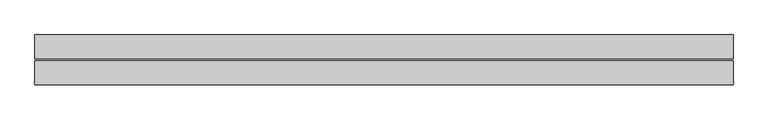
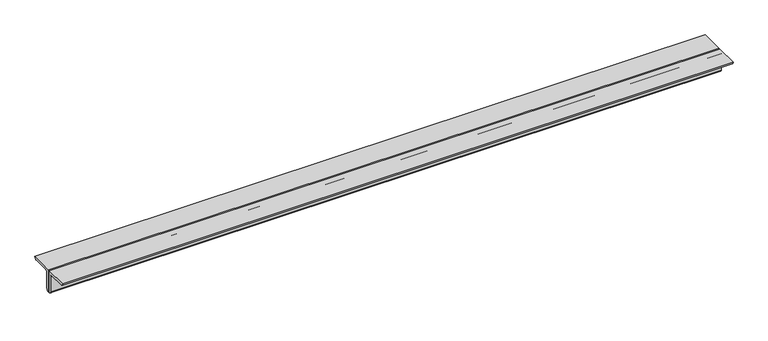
"""IFC4 building model written with IfcOpenShell, lengths in millimetres: beam geometry, Profilati doppi a L : DCED150x12."""

import ifcopenshell
import ifcopenshell.guid

model = None  # the IFC model being written
_history = None  # IfcOwnerHistory: only IFC2X3 demands one
_inside = {}  # id of a spatial element -> (the spatial element, [elements in it])
_under = {}  # id of a project, library or spatial element -> (it, [spatial elements below it])
_declared = {}  # id of a project -> (the project, [libraries it declares])
_typed = {}  # id of a type object -> (the type object, [elements of that type])
_made_of = {}  # id of a material, layer set ... -> (it, [elements and type objects made of it])


def new_model(schema):
    """Start an empty IFC model of exactly this schema.

    Asked for "IFC4X3", IfcOpenShell would pick the latest addendum, in which some entities
    have other attributes; the version numbers below select the first issue.
    IFC2X3 requires an IfcOwnerHistory on every rooted entity: one is made here for all.
    """
    global model, _history
    if schema == "IFC4X3":
        model = ifcopenshell.file(schema_version=(4, 3, 0, 0))
    else:
        model = ifcopenshell.file(schema=schema)
    _inside.clear()
    _under.clear()
    _declared.clear()
    _typed.clear()
    _made_of.clear()
    _history = None
    if model.schema == "IFC2X3":
        org = make("IfcOrganization", Name="unknown")
        user = make(
            "IfcPersonAndOrganization",
            ThePerson=make("IfcPerson", FamilyName="unknown"),
            TheOrganization=org,
        )
        app = make(
            "IfcApplication",
            ApplicationDeveloper=org,
            Version="unknown",
            ApplicationFullName="unknown",
            ApplicationIdentifier="unknown",
        )
        _history = make(
            "IfcOwnerHistory",
            OwningUser=user,
            OwningApplication=app,
            ChangeAction="ADDED",
            CreationDate=0,
        )
    return model


def make(cls, **values):
    """One entity of the class cls with the attributes given. An attribute that is None is left unset."""
    return model.create_entity(
        cls, **{name: value for name, value in values.items() if value is not None}
    )


def rooted(cls, **values):
    """An entity with a GlobalId (a new one), such as an element, a storey or a relation."""
    return make(cls, GlobalId=ifcopenshell.guid.new(), OwnerHistory=_history, **values)


def si_unit(unit_type, name, prefix=None):
    """IfcSIUnit, for example si_unit("LENGTHUNIT", "METRE", prefix="MILLI")."""
    return make("IfcSIUnit", UnitType=unit_type, Prefix=prefix, Name=name)


def assignment(units):
    """IfcUnitAssignment: the units of a project."""
    return None if units is None else make("IfcUnitAssignment", Units=units)


def point(xyz):
    """IfcCartesianPoint."""
    return None if xyz is None else make("IfcCartesianPoint", Coordinates=xyz)


def direction(xyz):
    """IfcDirection."""
    return None if xyz is None else make("IfcDirection", DirectionRatios=xyz)


def frame(location, z_axis=None, x_axis=None):
    """IfcAxis2Placement3D, a coordinate frame: its origin and axes. An axis left out is left unset."""
    return make(
        "IfcAxis2Placement3D",
        Location=point(location),
        Axis=direction(z_axis),
        RefDirection=direction(x_axis),
    )


def frame_2d(location, x_axis=None):
    """IfcAxis2Placement2D, a coordinate frame in the plane: its origin and x axis."""
    return make(
        "IfcAxis2Placement2D", Location=point(location), RefDirection=direction(x_axis)
    )


def origin():
    """The frame at (0, 0, 0) with its axes left unset."""
    return frame((0.0, 0.0, 0.0))


def place(relative_to, where):
    """IfcLocalPlacement: puts the frame where relative to a parent placement (None: the world)."""
    return make(
        "IfcLocalPlacement", PlacementRelTo=relative_to, RelativePlacement=where
    )


def context(
    kind, dimensions, precision=None, world=None, true_north=None, identifier=None
):
    """IfcGeometricRepresentationContext, for example the 3D "Model" context."""
    return make(
        "IfcGeometricRepresentationContext",
        ContextIdentifier=identifier,
        ContextType=kind,
        CoordinateSpaceDimension=dimensions,
        Precision=precision,
        WorldCoordinateSystem=world,
        TrueNorth=true_north,
    )


def project(units=None, contexts=None):
    """IfcProject with its units and contexts."""
    return rooted(
        "IfcProject",
        Name="project",
        RepresentationContexts=contexts,
        UnitsInContext=assignment(units),
    )


def spatial(cls, under=None, at=None, **own):
    """A site, building, storey or space (cls), placed at a placement, below another one or the project."""
    s = rooted(cls, ObjectPlacement=at, **own)
    if under is not None:
        _under.setdefault(under.id(), (under, []))[1].append(s)
    return s


def polyline(points):
    """IfcPolyline through the points."""
    return make("IfcPolyline", Points=[point(p) for p in points])


def circle_curve(where, radius):
    """IfcCircle in the frame where."""
    return make("IfcCircle", Position=where, Radius=radius)


def trimmed(basis, trim1, trim2, sense, master):
    """IfcTrimmedCurve: the piece of a basis curve between two trims."""
    return make(
        "IfcTrimmedCurve",
        BasisCurve=basis,
        Trim1=trim1,
        Trim2=trim2,
        SenseAgreement=sense,
        MasterRepresentation=master,
    )


def segment(curve, same_sense, transition):
    """IfcCompositeCurveSegment."""
    return make(
        "IfcCompositeCurveSegment",
        Transition=transition,
        SameSense=same_sense,
        ParentCurve=curve,
    )


def composite_curve(segments, self_intersect=None):
    """IfcCompositeCurve: segments joined end to end."""
    return make("IfcCompositeCurve", Segments=segments, SelfIntersect=self_intersect)


def outline(outer, holes=None, kind="AREA"):
    """IfcArbitraryClosedProfileDef: a profile drawn as a closed curve; with holes, ...WithVoids."""
    if holes is None:
        return make("IfcArbitraryClosedProfileDef", ProfileType=kind, OuterCurve=outer)
    return make(
        "IfcArbitraryProfileDefWithVoids",
        ProfileType=kind,
        OuterCurve=outer,
        InnerCurves=holes,
    )


def extrude(swept, where, along, depth):
    """IfcExtrudedAreaSolid: the profile swept, set in the frame where, extruded along a direction by depth."""
    return make(
        "IfcExtrudedAreaSolid",
        SweptArea=swept,
        Position=where,
        ExtrudedDirection=direction(along),
        Depth=depth,
    )


def shape(context_of_items, identifier, shape_type, items):
    """IfcShapeRepresentation: the items that make up one representation, for example the "Body"."""
    return make(
        "IfcShapeRepresentation",
        ContextOfItems=context_of_items,
        RepresentationIdentifier=identifier,
        RepresentationType=shape_type,
        Items=items,
    )


def source(mapping_origin, context_of_items, identifier, shape_type, items):
    """IfcRepresentationMap: a shape defined once, which mapped items show again and again."""
    return make(
        "IfcRepresentationMap",
        MappingOrigin=mapping_origin,
        MappedRepresentation=shape(context_of_items, identifier, shape_type, items),
    )


def transform(
    local_origin,
    x_axis=None,
    y_axis=None,
    z_axis=None,
    scale=None,
    scale2=None,
    scale3=None,
    uniform=True,
):
    """IfcCartesianTransformationOperator3D, or its non-uniform kind. x_axis, y_axis, z_axis: its Axis1, 2, 3."""
    if uniform:
        return make(
            "IfcCartesianTransformationOperator3D",
            Axis1=direction(x_axis),
            Axis2=direction(y_axis),
            LocalOrigin=point(local_origin),
            Scale=scale,
            Axis3=direction(z_axis),
        )
    return make(
        "IfcCartesianTransformationOperator3DnonUniform",
        Axis1=direction(x_axis),
        Axis2=direction(y_axis),
        LocalOrigin=point(local_origin),
        Scale=scale,
        Axis3=direction(z_axis),
        Scale2=scale2,
        Scale3=scale3,
    )


def mapped(mapping_source, mapping_target):
    """IfcMappedItem: shows the shape of a source again, moved by a transform."""
    return make(
        "IfcMappedItem", MappingSource=mapping_source, MappingTarget=mapping_target
    )


def made_of(thing, what):
    """Note that an element or type object is made of a material, layer set ...; save() writes the relation."""
    if what is not None:
        _made_of.setdefault(what.id(), (what, []))[1].append(thing)
    return thing


def element(
    cls,
    number,
    at=None,
    inside=None,
    cuts=None,
    type_object=None,
    material=None,
    context=None,
    identifier="Body",
    shape_type=None,
    held_by="IfcProductDefinitionShape",
    body=None,
    shapes=None,
    **own,
):
    """One element of the class cls, such as IfcWall. Its Tag is "e" and its number.

    at: its placement. inside: the storey or other place that contains it. cuts: it is an
    opening in that element (IfcRelVoidsElement). A single representation is given by context,
    identifier, shape_type and body (its items); several are given by shapes. held_by: the class
    of the entity that holds the representations. save() writes the other relations.
    """
    e = rooted(cls, Tag="e%d" % number, ObjectPlacement=at, **own)
    if body is not None:
        shapes = [shape(context, identifier, shape_type, body)]
    if shapes is not None:
        e.Representation = make(held_by, Representations=shapes)
    if inside is not None:
        _inside.setdefault(inside.id(), (inside, []))[1].append(e)
    if cuts is not None:
        rooted(
            "IfcRelVoidsElement", RelatingBuildingElement=cuts, RelatedOpeningElement=e
        )
    if type_object is not None:
        _typed.setdefault(type_object.id(), (type_object, []))[1].append(e)
    return made_of(e, material)


def aggregate(whole, parts):
    """IfcRelAggregates: a whole, such as a stair, and the parts it consists of."""
    return rooted("IfcRelAggregates", RelatingObject=whole, RelatedObjects=parts)


def save(model, path):
    """Write the relations noted so far, then the file.

    IfcRelAggregates (storeys below a building ...), IfcRelContainedInSpatialStructure (elements
    in a storey), IfcRelDefinesByType, IfcRelAssociatesMaterial and IfcRelDeclares: one each for
    every whole, place, type object, material and project.
    """
    for whole, parts in _under.values():
        aggregate(whole, parts)
    for where, things in _inside.values():
        rooted(
            "IfcRelContainedInSpatialStructure",
            RelatedElements=things,
            RelatingStructure=where,
        )
    for kind, things in _typed.values():
        rooted("IfcRelDefinesByType", RelatedObjects=things, RelatingType=kind)
    for what, things in _made_of.values():
        rooted("IfcRelAssociatesMaterial", RelatedObjects=things, RelatingMaterial=what)
    for by, libraries in _declared.values():
        rooted("IfcRelDeclares", RelatingContext=by, RelatedDefinitions=libraries)
    model.write(path)


def beam_364cffa0(model_context):
    return source(origin(), model_context, "Body", "SweptSolid", [
        extrude(outline(composite_curve([segment(polyline([(6.0, 42.4), (156.0, 42.4)]), True, "CONTINUOUS"), segment(trimmed(circle_curve(frame_2d((141.0, 42.4)), 15.0), [point((156.0, 42.4))], [point((141.0, 27.4))], False, "CARTESIAN"), True, "CONTINUOUS"), segment(polyline([(141.0, 27.4), (36.0, 27.4)]), True, "CONTINUOUS"), segment(trimmed(circle_curve(frame_2d((36.0, 12.4)), 15.0), [point((36.0, 27.4))], [point((21.0, 12.4))], True, "CARTESIAN"), True, "CONTINUOUS"), segment(polyline([(21.0, 12.4), (21.0, -92.6)]), True, "CONTINUOUS"), segment(trimmed(circle_curve(frame_2d((6.0, -92.6)), 15.0), [point((21.0, -92.6))], [point((6.0, -107.6))], False, "CARTESIAN"), True, "CONTINUOUS"), segment(polyline([(6.0, -107.6), (6.0, 42.4)]), True, "CONTINUOUS")], self_intersect=False)), frame((-2115.0, 0.0, 0.0), z_axis=(1.0, 0.0, 0.0), x_axis=(0.0, 1.0, 0.0)), (0.0, 0.0, 1.0), 4356.0),
        extrude(outline(composite_curve([segment(polyline([(-6.0, 42.4), (-6.0, -107.6)]), True, "CONTINUOUS"), segment(trimmed(circle_curve(frame_2d((-6.0, -92.6)), 15.0), [point((-6.0, -107.6))], [point((-21.0, -92.6))], False, "CARTESIAN"), True, "CONTINUOUS"), segment(polyline([(-21.0, -92.6), (-21.0, 12.4)]), True, "CONTINUOUS"), segment(trimmed(circle_curve(frame_2d((-36.0, 12.4)), 15.0), [point((-21.0, 12.4))], [point((-36.0, 27.4))], True, "CARTESIAN"), True, "CONTINUOUS"), segment(polyline([(-36.0, 27.4), (-141.0, 27.4)]), True, "CONTINUOUS"), segment(trimmed(circle_curve(frame_2d((-141.0, 42.4)), 15.0), [point((-141.0, 27.4))], [point((-156.0, 42.4))], False, "CARTESIAN"), True, "CONTINUOUS"), segment(polyline([(-156.0, 42.4), (-6.0, 42.4)]), True, "CONTINUOUS")], self_intersect=False)), frame((-2115.0, 0.0, 0.0), z_axis=(1.0, 0.0, 0.0), x_axis=(0.0, 1.0, 0.0)), (0.0, 0.0, 1.0), 4356.0),
    ])


if __name__ == "__main__":
    model = new_model("IFC4")
    model_context = context("Model", 3, world=origin())
    ifc_project = project(units=[si_unit("LENGTHUNIT", "METRE", prefix="MILLI")], contexts=[model_context])
    site = spatial("IfcSite", under=ifc_project)
    building = spatial("IfcBuilding", under=site)
    placement = place(None, origin())
    beam_shape = beam_364cffa0(model_context)
    element("IfcBeam", 1, ObjectType="Profilati doppi a L : DCED150x12", at=placement, inside=building, context=model_context, shape_type="MappedRepresentation", body=[
        mapped(beam_shape, transform((0.0, 0.0, 0.0), x_axis=(1.0, 0.0, 0.0), y_axis=(0.0, 1.0, 0.0), z_axis=(0.0, 0.0, 1.0))),
    ])
    save(model, "model.ifc")
